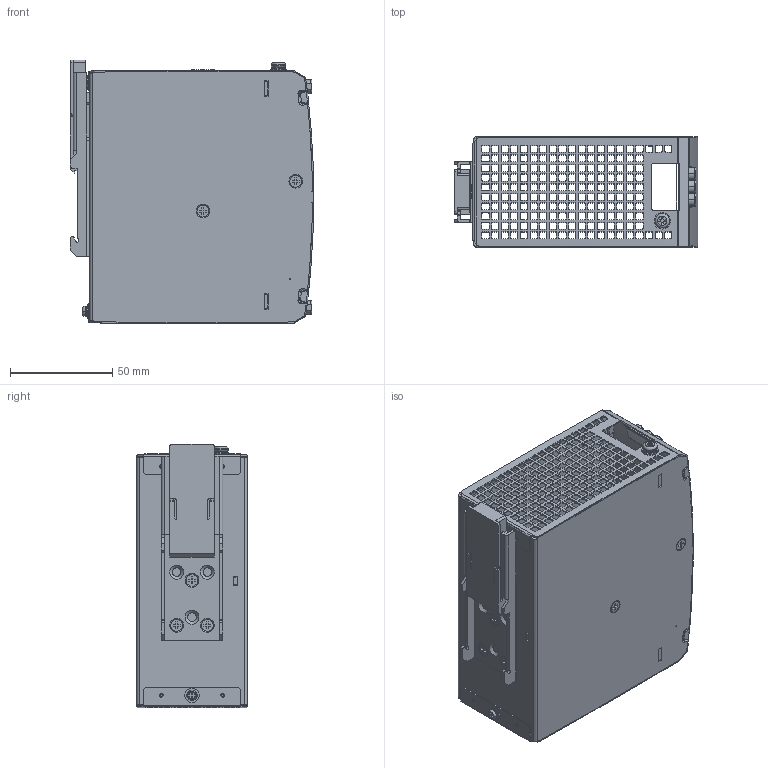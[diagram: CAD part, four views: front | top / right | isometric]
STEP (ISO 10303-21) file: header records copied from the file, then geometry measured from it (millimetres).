
FILE_DESCRIPTION(('TFLEX Exchange Step'),'2;1');
FILE_NAME('STK-EX-PSU-48-240W.stp', '2025-01-30T12:49:00+03:00',('Yuriy Romanov'),('Unknown organisation'),'TFLEX Exchange 2023.2','T-FLEX CAD','Unknown authorisation');
FILE_SCHEMA( ('AUTOMOTIVE_DESIGN { 1 0 10303 214 1 1 1 1 }') );
Length unit declared in the file: millimetre
Products named in the file (1): STK-EX-PSU-48-240W
Bounding box: 118.9 x 54 x 128.8 mm (x, y, z)
Topology: 50 solids, 50 shells, 4217 faces, 12368 edges, 8225 vertices
Faces by surface type: plane 2220, bspline 1492, cylinder 394, torus 60, sphere 24, cone 23, extrusion 4
Full cylindrical faces by diameter (mm): 2.45 x2, 2.6 x2, 2.75 x2, 2.85 x2, 3 x4, 3.4 x1, 3.5 x2, 3.7 x1, 3.8 x1, 4.2 x6, 4.4 x5, 4.464 x5, 5 x9, 5.2 x7, 6.8 x1, 7 x3, 7.2 x1, 8 x1
Entity records: 218132 total; most frequent: CARTESIAN_POINT 117698, ORIENTED_EDGE 24690, DIRECTION 14637, EDGE_CURVE 12345, VERTEX_POINT 8223, B_SPLINE_CURVE_WITH_KNOTS 5723, AXIS2_PLACEMENT_3D 5293, EDGE_LOOP 5026
